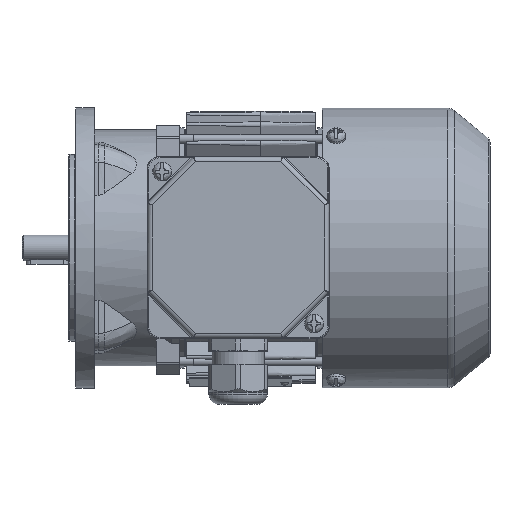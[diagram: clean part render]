
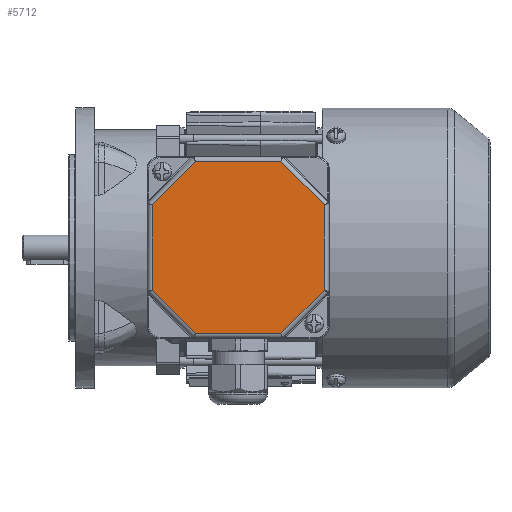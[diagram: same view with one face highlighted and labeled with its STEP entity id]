
A CAD part, top view. The second image highlights one B-rep face of the part: STEP entity #5712.
In plain terms, the highlighted planar face has unit normal (0, 0, 1).
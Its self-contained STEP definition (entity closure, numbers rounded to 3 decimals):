
#5712 = ADVANCED_FACE( '', ( #11441 ), #11442, .T. );
#11441 = FACE_OUTER_BOUND( '', #25504, .T. );
#11442 = PLANE( '', #25505 );
#25504 = EDGE_LOOP( '', ( #41124, #41125, #41126, #41127, #41128, #41129, #41130, #41131 ) );
#25505 = AXIS2_PLACEMENT_3D( '', #41132, #41133, #41134 );
#41124 = ORIENTED_EDGE( '', *, *, #47527, .T. );
#41125 = ORIENTED_EDGE( '', *, *, #44914, .T. );
#41126 = ORIENTED_EDGE( '', *, *, #45124, .T. );
#41127 = ORIENTED_EDGE( '', *, *, #44216, .T. );
#41128 = ORIENTED_EDGE( '', *, *, #42582, .T. );
#41129 = ORIENTED_EDGE( '', *, *, #47828, .T. );
#41130 = ORIENTED_EDGE( '', *, *, #44653, .T. );
#41131 = ORIENTED_EDGE( '', *, *, #47538, .T. );
#41132 = CARTESIAN_POINT( '', ( -39., 39., 12. ) );
#41133 = DIRECTION( '', ( 0., 0., 1. ) );
#41134 = DIRECTION( '', ( 1., 0., 0. ) );
#42582 = EDGE_CURVE( '', #49338, #49339, #49340, .F. );
#44216 = EDGE_CURVE( '', #52064, #49338, #52065, .T. );
#44653 = EDGE_CURVE( '', #52757, #52758, #52759, .F. );
#44914 = EDGE_CURVE( '', #53162, #53163, #53164, .T. );
#45124 = EDGE_CURVE( '', #53163, #52064, #53470, .F. );
#47527 = EDGE_CURVE( '', #54055, #53162, #56744, .F. );
#47538 = EDGE_CURVE( '', #52758, #54055, #56756, .T. );
#47828 = EDGE_CURVE( '', #49339, #52757, #57065, .T. );
#49338 = VERTEX_POINT( '', #59304 );
#49339 = VERTEX_POINT( '', #59305 );
#49340 = LINE( '', #59306, #59307 );
#52064 = VERTEX_POINT( '', #65622 );
#52065 = LINE( '', #65623, #65624 );
#52757 = VERTEX_POINT( '', #66954 );
#52758 = VERTEX_POINT( '', #66955 );
#52759 = LINE( '', #66956, #66957 );
#53162 = VERTEX_POINT( '', #67609 );
#53163 = VERTEX_POINT( '', #67610 );
#53164 = LINE( '', #67611, #67612 );
#53470 = LINE( '', #68337, #68338 );
#54055 = VERTEX_POINT( '', #69705 );
#56744 = LINE( '', #75799, #75800 );
#56756 = LINE( '', #75816, #75817 );
#57065 = LINE( '', #76572, #76573 );
#59304 = CARTESIAN_POINT( '', ( -36.825, 18.255, 12. ) );
#59305 = CARTESIAN_POINT( '', ( -36.825, -18.255, 12. ) );
#59306 = CARTESIAN_POINT( '', ( -36.825, -19.069, 12. ) );
#59307 = VECTOR( '', #78264, 1000. );
#65622 = CARTESIAN_POINT( '', ( -18.255, 36.825, 12. ) );
#65623 = CARTESIAN_POINT( '', ( -37.401, 17.679, 12. ) );
#65624 = VECTOR( '', #80093, 1000. );
#66954 = CARTESIAN_POINT( '', ( -18.255, -36.825, 12. ) );
#66955 = CARTESIAN_POINT( '', ( 18.255, -36.825, 12. ) );
#66956 = CARTESIAN_POINT( '', ( 19.069, -36.825, 12. ) );
#66957 = VECTOR( '', #80558, 1000. );
#67609 = CARTESIAN_POINT( '', ( 36.825, 18.255, 12. ) );
#67610 = CARTESIAN_POINT( '', ( 18.255, 36.825, 12. ) );
#67611 = CARTESIAN_POINT( '', ( 17.679, 37.401, 12. ) );
#67612 = VECTOR( '', #80934, 1000. );
#68337 = CARTESIAN_POINT( '', ( -19.069, 36.825, 12. ) );
#68338 = VECTOR( '', #81184, 1000. );
#69705 = CARTESIAN_POINT( '', ( 36.825, -18.255, 12. ) );
#75799 = CARTESIAN_POINT( '', ( 36.825, 19.069, 12. ) );
#75800 = VECTOR( '', #83817, 1000. );
#75816 = CARTESIAN_POINT( '', ( 37.401, -17.679, 12. ) );
#75817 = VECTOR( '', #83822, 1000. );
#76572 = CARTESIAN_POINT( '', ( -17.679, -37.401, 12. ) );
#76573 = VECTOR( '', #84042, 1000. );
#78264 = DIRECTION( '', ( 0., 1., 0. ) );
#80093 = DIRECTION( '', ( -0.707, -0.707, 0. ) );
#80558 = DIRECTION( '', ( -1., 0., 0. ) );
#80934 = DIRECTION( '', ( -0.707, 0.707, 0. ) );
#81184 = DIRECTION( '', ( 1., 0., 0. ) );
#83817 = DIRECTION( '', ( 0., -1., 0. ) );
#83822 = DIRECTION( '', ( 0.707, 0.707, 0. ) );
#84042 = DIRECTION( '', ( 0.707, -0.707, 0. ) );
